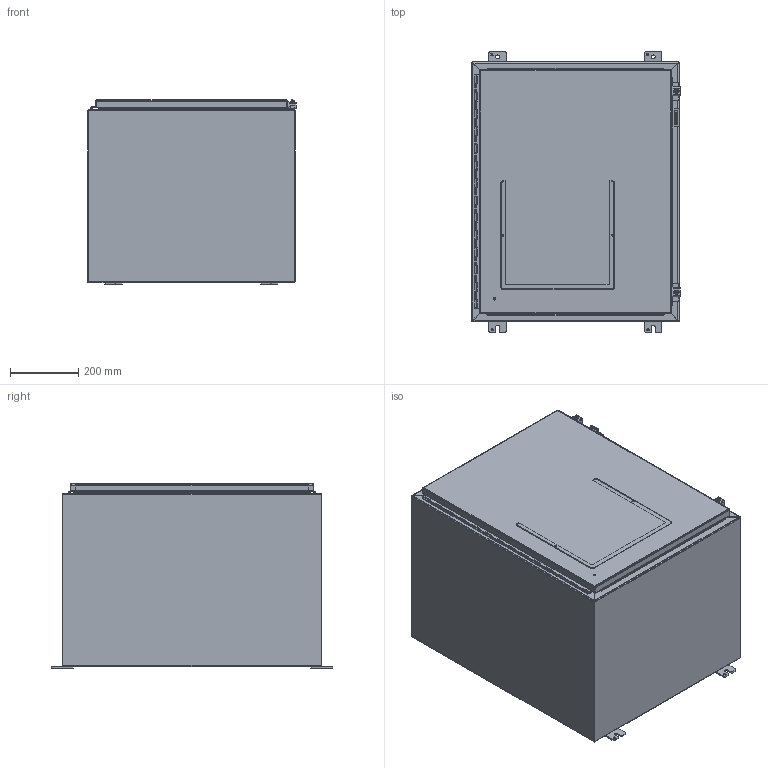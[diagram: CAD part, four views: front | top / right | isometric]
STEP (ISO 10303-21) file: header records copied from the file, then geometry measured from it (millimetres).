
FILE_DESCRIPTION (( 'STEP AP203' ), '1' );
FILE_NAME ('a302420lp.STEP', '2010-08-27T14:16:52', ( 'Hoffman User' ), ( 'Hoffman Enclosures' ), 'SwSTEP 2.0', 'SolidWorks 2009', '' );
FILE_SCHEMA (( 'CONFIG_CONTROL_DESIGN' ));
Products named in the file (23): 22362064; 22285029_default; 22118705_22118701; 22230001; 22112001_AFTER WELD; 89001490; 22351009; 87931362_87931362; 23418001; 87932903; 91307100; 22104006_SL-HHMS 0.25-28x0.875x0.875-N; 22103001_Free; 22110001; 22132003; 22118305; 99411210_Config-Drawing; 22118005; 22107001; 22101001; 87560041; 89042971_DOOR CLOSED; a302420lp
Assembly tree (34 placements, depth 4):
  a302420lp
    91307100  x2
      22104006_SL-HHMS 0.25-28x0.875x0.875-N
      22101001
      22103001_Free
      87560041
    87932903  x2
    89042971_DOOR CLOSED
      22362064
      22285029_default  x2
      22110001  x4
      22132003
      22112001_AFTER WELD  x4
      22118705_22118701
      22118305
      22230001  x2
      89001490
        87931362_87931362  x2
        22351009
        99411210_Config-Drawing
        22118005
        22107001
    23418001
Bounding box: 613.11 x 825.5 x 541.16 mm (x, y, z)
Volume: 4860998.2 mm3; surface area: 5258561.5 mm2
Topology: 35 solids, 35 shells, 3001 faces, 7880 edges, 5068 vertices
Faces by surface type: plane 1449, bspline 973, cylinder 465, torus 62, cone 48, sphere 4
Entity records: 128352 total; most frequent: CARTESIAN_POINT 72040, ORIENTED_EDGE 12550, DIRECTION 8423, EDGE_CURVE 6275, VERTEX_POINT 4076, VECTOR 4025, LINE 4025, EDGE_LOOP 2507
